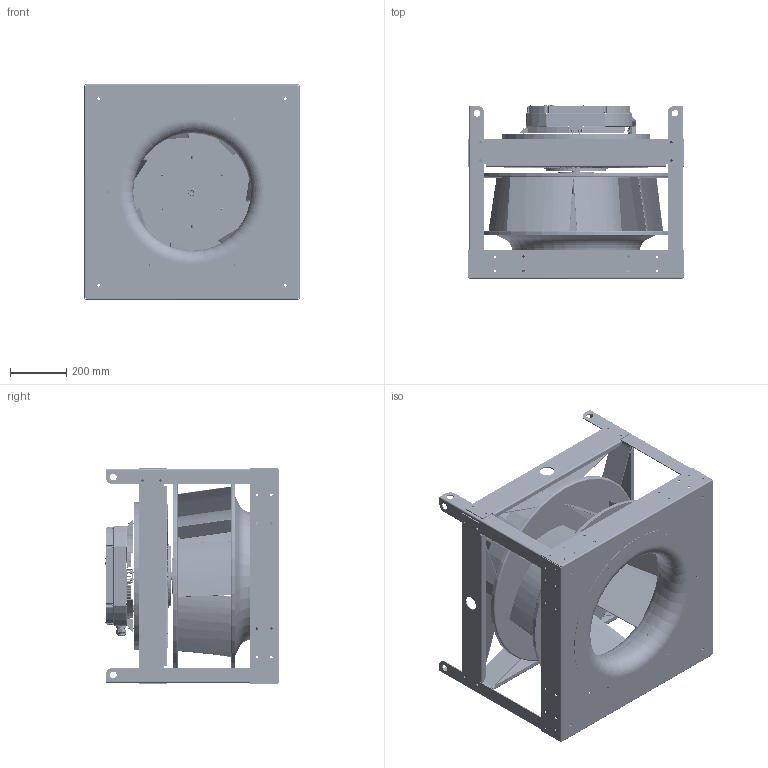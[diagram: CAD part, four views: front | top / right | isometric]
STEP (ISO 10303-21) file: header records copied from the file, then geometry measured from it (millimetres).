
FILE_DESCRIPTION (( 'STEP AP214' ), '1' );
FILE_NAME ('655787.STEP', '2026-06-10T16:32:26', ( '' ), ( '' ), 'SwSTEP 2.0', 'SolidWorks 2023', '' );
FILE_SCHEMA (( 'AUTOMOTIVE_DESIGN' ));
Length unit declared in the file: inch
Products named in the file (8): SXPI STRAP_651578; 651576_651576; 925959CS_925959CS; 651556_651556; 768039CS_768039CS; 768051CS_768051CS; 651555_651555; 655787
Assembly tree (16 placements, depth 2):
  655787
    651555_651555
    651556_651556  x4
    651576_651576  x4
    SXPI STRAP_651578  x4
    925959CS_925959CS
    768039CS_768039CS
    768051CS_768051CS
Bounding box: 766.15 x 620.71 x 766.15 mm (x, y, z)
Volume: 10994105.6 mm3; surface area: 8122267.6 mm2
Topology: 26 solids, 318 shells, 3980 faces, 12733 edges, 8763 vertices
Faces by surface type: cylinder 1135, plane 1129, bspline 1013, cone 329, torus 306, sphere 68
Full cylindrical faces by diameter (mm): 2.9 x2, 5.105 x16, 5.156 x6, 6 x37, 7 x5, 7.137 x48, 7.544 x1, 7.937 x3, 7.938 x1, 8.5 x1, 8.738 x87, 9 x4, 9.73 x8, 10 x8, 10.1 x1, 11.8 x16, 12.5 x1, 12.6 x1, 13 x15, 14 x1, 17.462 x2, 17.463 x2, 23.5 x1, 23.92 x1, 24.282 x1, 25.4 x8, 25.5 x3, 26.2 x1, 26.35 x1, 26.416 x2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
Entity records: 271572 total; most frequent: CARTESIAN_POINT 181162, ORIENTED_EDGE 18038, DIRECTION 16103, EDGE_CURVE 11407, VERTEX_POINT 8135, AXIS2_PLACEMENT_3D 6483, EDGE_LOOP 4581, B_SPLINE_CURVE_WITH_KNOTS 3905
